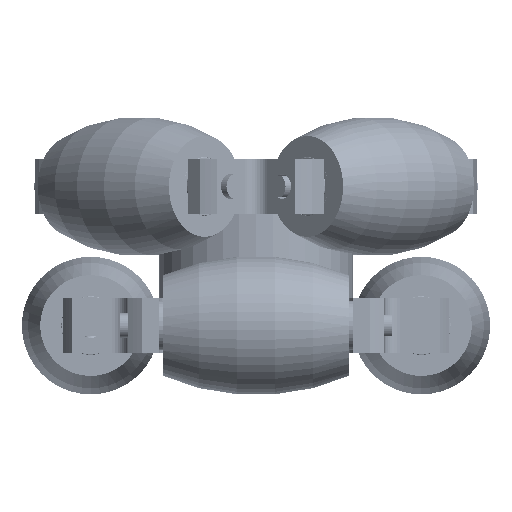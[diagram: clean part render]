
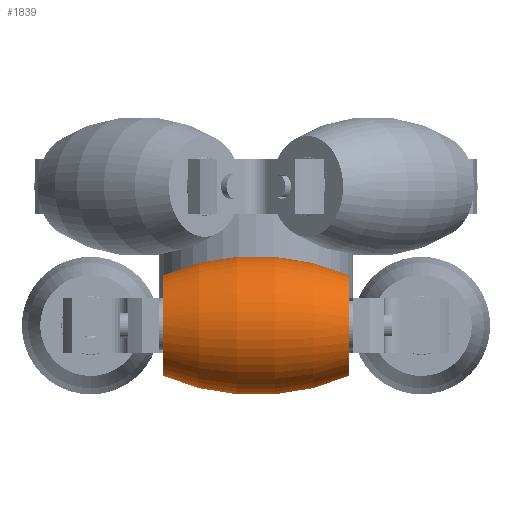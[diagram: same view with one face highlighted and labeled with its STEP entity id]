
A CAD part, front view. The second image highlights one B-rep face of the part: STEP entity #1839.
In plain terms, the highlighted toroidal (fillet/blend) face has major radius 53.5 mm and minor radius 76 mm.
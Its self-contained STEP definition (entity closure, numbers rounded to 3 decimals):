
#199 = CIRCLE ( 'NONE', #4479, 16.328 ) ;
#874 = DIRECTION ( 'NONE',  ( -1., 0., 0. ) ) ;
#1091 = ORIENTED_EDGE ( 'NONE', *, *, #3021, .F. ) ;
#1144 = AXIS2_PLACEMENT_3D ( 'NONE', #6385, #9560, #4732 ) ;
#1839 = ADVANCED_FACE ( 'NONE', ( #5985 ), #8632, .T. ) ;
#1868 = VERTEX_POINT ( 'NONE', #4444 ) ;
#2151 = ORIENTED_EDGE ( 'NONE', *, *, #3687, .F. ) ;
#2300 = EDGE_LOOP ( 'NONE', ( #2151, #5748, #4767, #1091 ) ) ;
#2322 = AXIS2_PLACEMENT_3D ( 'NONE', #3941, #5628, #4742 ) ;
#3021 = EDGE_CURVE ( 'NONE', #8596, #9391, #3436, .T. ) ;
#3305 = CARTESIAN_POINT ( 'NONE',  ( -30., 53.5, 16.328 ) ) ;
#3436 = CIRCLE ( 'NONE', #1144, 16.328 ) ;
#3642 = AXIS2_PLACEMENT_3D ( 'NONE', #8454, #10073, #6834 ) ;
#3687 = EDGE_CURVE ( 'NONE', #1868, #8596, #6677, .T. ) ;
#3941 = CARTESIAN_POINT ( 'NONE',  ( 0., 53.5, 53.5 ) ) ;
#4444 = CARTESIAN_POINT ( 'NONE',  ( 30., 53.5, -16.328 ) ) ;
#4479 = AXIS2_PLACEMENT_3D ( 'NONE', #5649, #874, #7248 ) ;
#4732 = DIRECTION ( 'NONE',  ( 0., 0., 1. ) ) ;
#4742 = DIRECTION ( 'NONE',  ( 0., 0., 1. ) ) ;
#4767 = ORIENTED_EDGE ( 'NONE', *, *, #8228, .T. ) ;
#5360 = DIRECTION ( 'NONE',  ( 0., 0., -1. ) ) ;
#5628 = DIRECTION ( 'NONE',  ( 0., 1., 0. ) ) ;
#5649 = CARTESIAN_POINT ( 'NONE',  ( 30., 53.5, 0. ) ) ;
#5748 = ORIENTED_EDGE ( 'NONE', *, *, #8376, .T. ) ;
#5985 = FACE_OUTER_BOUND ( 'NONE', #2300, .T. ) ;
#6131 = DIRECTION ( 'NONE',  ( 0., -1., 0. ) ) ;
#6200 = CARTESIAN_POINT ( 'NONE',  ( 0., 53.5, -53.5 ) ) ;
#6385 = CARTESIAN_POINT ( 'NONE',  ( -30., 53.5, 0. ) ) ;
#6559 = CIRCLE ( 'NONE', #7398, 76. ) ;
#6677 = CIRCLE ( 'NONE', #2322, 76. ) ;
#6678 = VERTEX_POINT ( 'NONE', #7201 ) ;
#6834 = DIRECTION ( 'NONE',  ( 0., 0., 1. ) ) ;
#7200 = CARTESIAN_POINT ( 'NONE',  ( -30., 53.5, -16.328 ) ) ;
#7201 = CARTESIAN_POINT ( 'NONE',  ( 30., 53.5, 16.328 ) ) ;
#7248 = DIRECTION ( 'NONE',  ( 0., 0., 1. ) ) ;
#7398 = AXIS2_PLACEMENT_3D ( 'NONE', #6200, #6131, #5360 ) ;
#8228 = EDGE_CURVE ( 'NONE', #6678, #9391, #6559, .T. ) ;
#8376 = EDGE_CURVE ( 'NONE', #1868, #6678, #199, .T. ) ;
#8454 = CARTESIAN_POINT ( 'NONE',  ( 0., 53.5, 0. ) ) ;
#8596 = VERTEX_POINT ( 'NONE', #7200 ) ;
#8632 = TOROIDAL_SURFACE ( 'NONE', #3642, -53.5, 76. ) ;
#9391 = VERTEX_POINT ( 'NONE', #3305 ) ;
#9560 = DIRECTION ( 'NONE',  ( -1., 0., 0. ) ) ;
#10073 = DIRECTION ( 'NONE',  ( -1., 0., 0. ) ) ;
